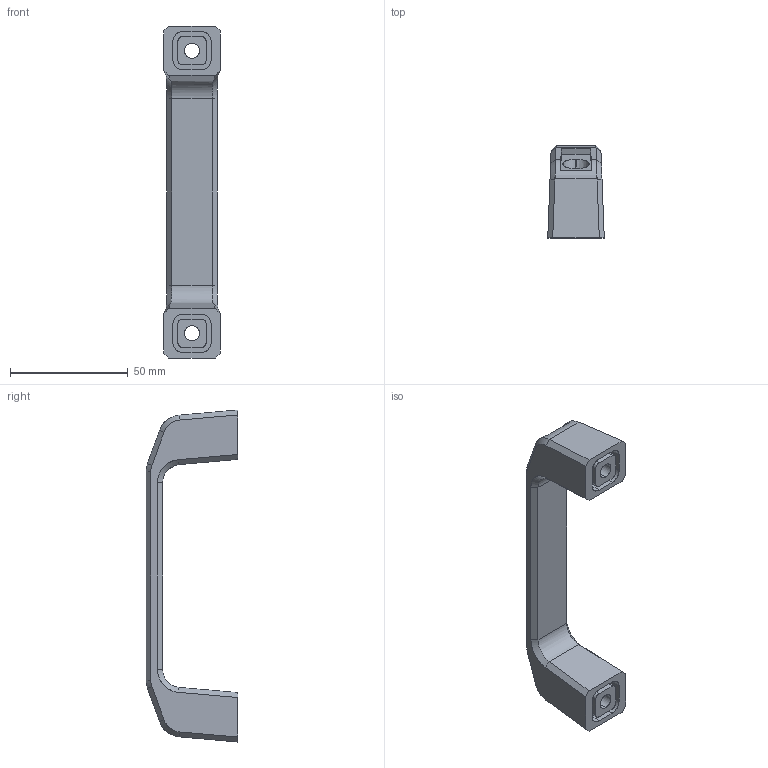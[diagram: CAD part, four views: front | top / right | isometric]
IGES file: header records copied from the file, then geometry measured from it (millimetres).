
Start section: SolidWorks IGES file using analytic representation for surfaces
Global section: file name: C:\Documents and Settings\IANO\Desktop\Temp File\Process pending\PCN pending\79100_v2\79100_v2_20170116_IGES\79100.W0120-0.igs; native system: SolidWorks 2009; preprocessor: SolidWorks 2009; author: IANO; date: 170310.124106; units: millimetre
Bounding box: 24 x 39 x 141 mm (x, y, z)
Surface area: 16179.4 mm2 (no closed solid volume)
Topology: 0 solids, 0 shells, 100 faces, 1052 edges, 1052 vertices
Faces by surface type: bspline 70, revolution 30
